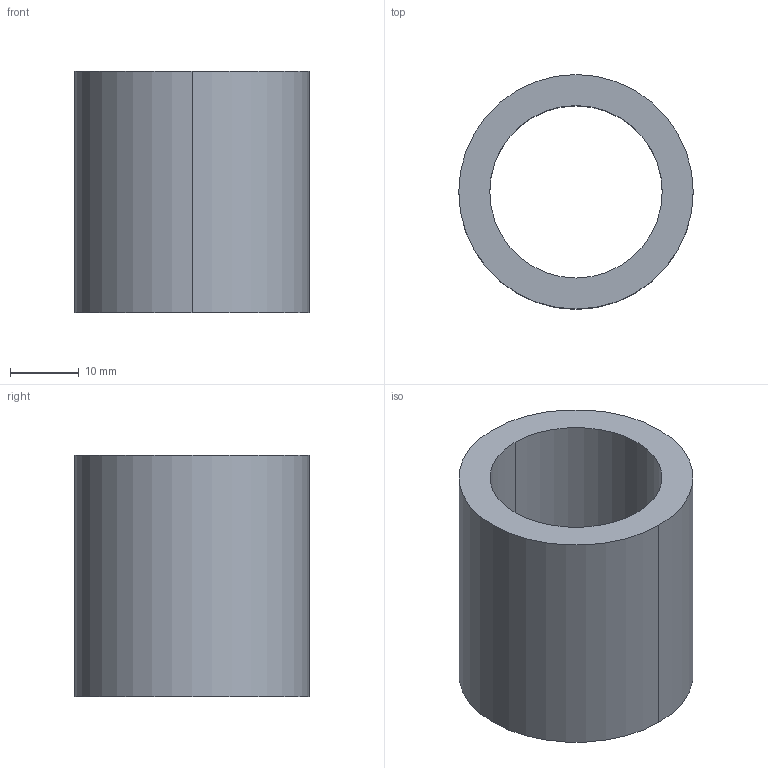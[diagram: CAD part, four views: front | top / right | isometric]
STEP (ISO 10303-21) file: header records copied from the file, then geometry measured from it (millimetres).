
FILE_DESCRIPTION(/* description */ (''),/* implementation_level */ '2;1');
FILE_NAME(/* name */ '3d_tgbz25-35_00335_r00.stp',/* time_stamp */ '2011-01-10T14:09:03+09:00',/* author */ ('MISUMI'),/* organization */ (''),/* preprocessor_version */ 'ST-DEVELOPER v11',/* originating_system */ 'UGS - NX 5.0',/* authorisation */ '');
FILE_SCHEMA (('CONFIG_CONTROL_DESIGN'));
Length unit declared in the file: millimetre
Products named in the file (1): 3d_tgbz25-35_00335_r00
Bounding box: 34 x 34 x 35 mm (x, y, z)
Volume: 14596.6 mm3; surface area: 7321.5 mm2
Topology: 1 solids, 1 shells, 6 faces, 12 edges, 8 vertices
Faces by surface type: cylinder 4, plane 2
Entity records: 254 total; most frequent: DIRECTION 34, CARTESIAN_POINT 27, ORIENTED_EDGE 24, AXIS2_PLACEMENT_3D 15, EDGE_CURVE 12, EDGE_LOOP 8, CIRCLE 8, VERTEX_POINT 8
